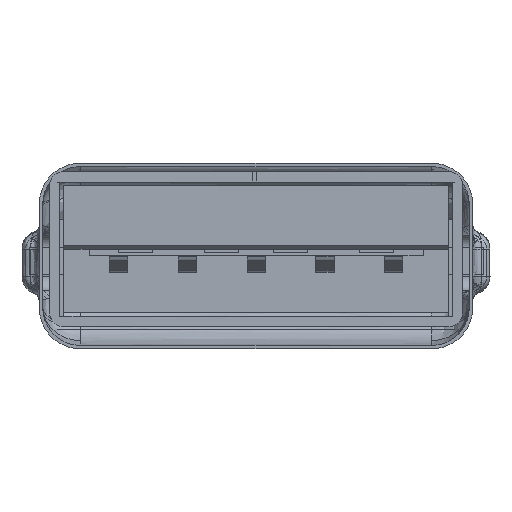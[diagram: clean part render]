
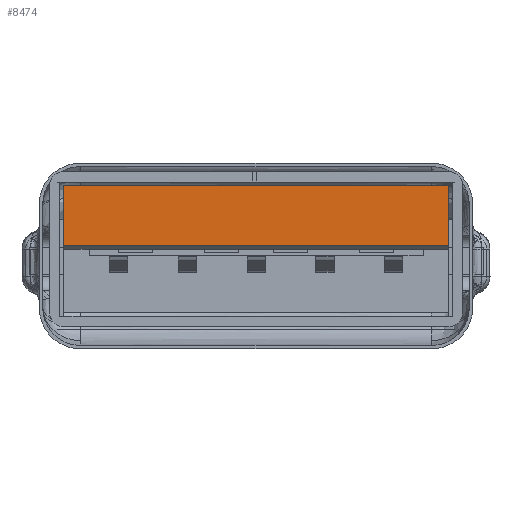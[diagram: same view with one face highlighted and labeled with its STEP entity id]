
A CAD part, front view. The second image highlights one B-rep face of the part: STEP entity #8474.
In plain terms, the highlighted planar face has unit normal (0, -1, 0).
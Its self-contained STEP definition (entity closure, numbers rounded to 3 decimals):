
#8326 = VERTEX_POINT('',#8327);
#8327 = CARTESIAN_POINT('',(-11.6,6.153,-0.745));
#8333 = EDGE_CURVE('',#8334,#8326,#8336,.T.);
#8334 = VERTEX_POINT('',#8335);
#8335 = CARTESIAN_POINT('',(-11.6,6.153,1.));
#8336 = LINE('',#8337,#8338);
#8337 = CARTESIAN_POINT('',(-11.6,6.153,1.));
#8338 = VECTOR('',#8339,1.);
#8339 = DIRECTION('',(0.,0.,-1.));
#8384 = VERTEX_POINT('',#8385);
#8385 = CARTESIAN_POINT('',(-0.4,6.153,-0.745));
#8401 = VERTEX_POINT('',#8402);
#8402 = CARTESIAN_POINT('',(-0.4,6.153,1.));
#8408 = EDGE_CURVE('',#8384,#8401,#8409,.T.);
#8409 = LINE('',#8410,#8411);
#8410 = CARTESIAN_POINT('',(-0.4,6.153,-0.85));
#8411 = VECTOR('',#8412,1.);
#8412 = DIRECTION('',(0.,0.,1.));
#8424 = EDGE_CURVE('',#8401,#8334,#8425,.T.);
#8425 = LINE('',#8426,#8427);
#8426 = CARTESIAN_POINT('',(-0.4,6.153,1.));
#8427 = VECTOR('',#8428,1.);
#8428 = DIRECTION('',(-1.,0.,0.));
#8474 = ADVANCED_FACE('',(#8475),#8486,.T.);
#8475 = FACE_BOUND('',#8476,.T.);
#8476 = EDGE_LOOP('',(#8477,#8483,#8484,#8485));
#8477 = ORIENTED_EDGE('',*,*,#8478,.T.);
#8478 = EDGE_CURVE('',#8326,#8384,#8479,.T.);
#8479 = LINE('',#8480,#8481);
#8480 = CARTESIAN_POINT('',(-11.6,6.153,-0.745));
#8481 = VECTOR('',#8482,1.);
#8482 = DIRECTION('',(1.,-0.,-0.));
#8483 = ORIENTED_EDGE('',*,*,#8408,.T.);
#8484 = ORIENTED_EDGE('',*,*,#8424,.T.);
#8485 = ORIENTED_EDGE('',*,*,#8333,.T.);
#8486 = PLANE('',#8487);
#8487 = AXIS2_PLACEMENT_3D('',#8488,#8489,#8490);
#8488 = CARTESIAN_POINT('',(-12.,6.153,1.4));
#8489 = DIRECTION('',(-0.,-1.,-0.));
#8490 = DIRECTION('',(0.,0.,-1.));
